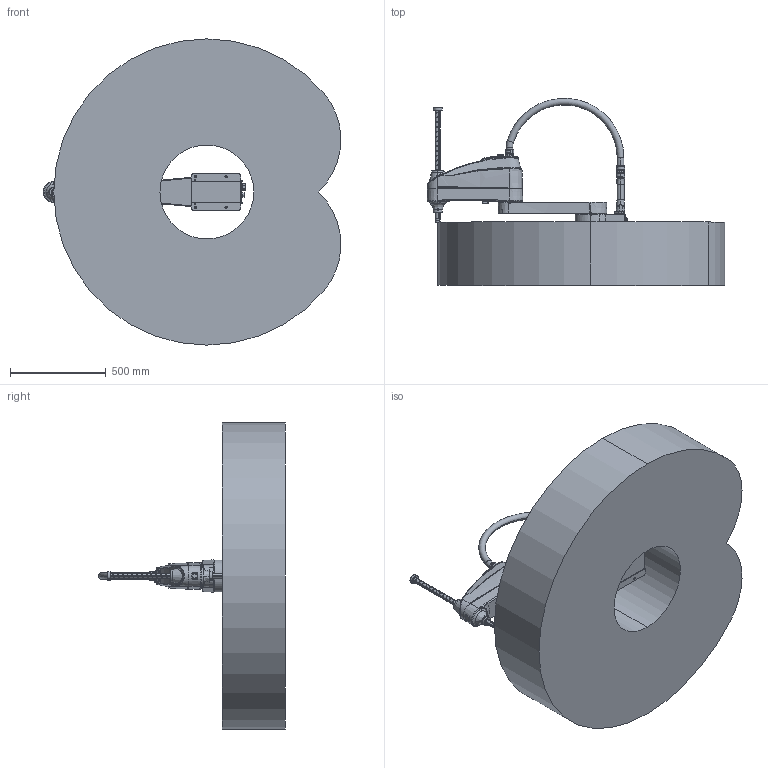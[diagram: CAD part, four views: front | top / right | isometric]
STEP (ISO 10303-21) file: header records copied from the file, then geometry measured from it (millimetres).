
FILE_DESCRIPTION (( 'STEP AP214' ), '1' );
FILE_NAME ('KLS800-10N 諦蚚晤憮紫.STEP', '2025-04-03T01:36:59', ( '' ), ( '' ), 'SwSTEP 2.0', 'SolidWorks 2020', '' );
FILE_SCHEMA (( 'AUTOMOTIVE_DESIGN' ));
Length unit declared in the file: millimetre
Products named in the file (7): KLS800-10N諦蚚佪裝_defeature1.3; KLS800-10N 諦蚚晤憮紫; KLS800-10N諦蚚佪裝_defeature1.1; KLS800-10N諦蚚堍雄諾潔_defeature1.0; KLS800-10N諦蚚疏恇奪_defeature1.0; KLS800-10N諦蚚湮旋_defeature1.0; KLS800-10N諦蚚菁釱1_defeature1.0
Assembly tree (6 placements, depth 2):
  KLS800-10N 諦蚚晤憮紫
    KLS800-10N諦蚚菁釱1_defeature1.0
    KLS800-10N諦蚚疏恇奪_defeature1.0
    KLS800-10N諦蚚湮旋_defeature1.0
    KLS800-10N諦蚚佪裝_defeature1.3
    KLS800-10N諦蚚佪裝_defeature1.1
    KLS800-10N諦蚚堍雄諾潔_defeature1.0
Bounding box: 1556.45 x 976.66 x 1600 mm (x, y, z)
Volume: 599076482.5 mm3; surface area: 6718911.3 mm2
Topology: 7 solids, 7 shells, 1742 faces, 4502 edges, 2828 vertices
Faces by surface type: cylinder 725, plane 521, torus 167, cone 151, bspline 148, sphere 30
Entity records: 112709 total; most frequent: CARTESIAN_POINT 52929, ORIENTED_EDGE 8888, DIRECTION 7988, EDGE_CURVE 4444, AXIS2_PLACEMENT_3D 3134, VERTEX_POINT 2813, EDGE_LOOP 1915, UNCERTAINTY_MEASURE_WITH_UNIT 1762
